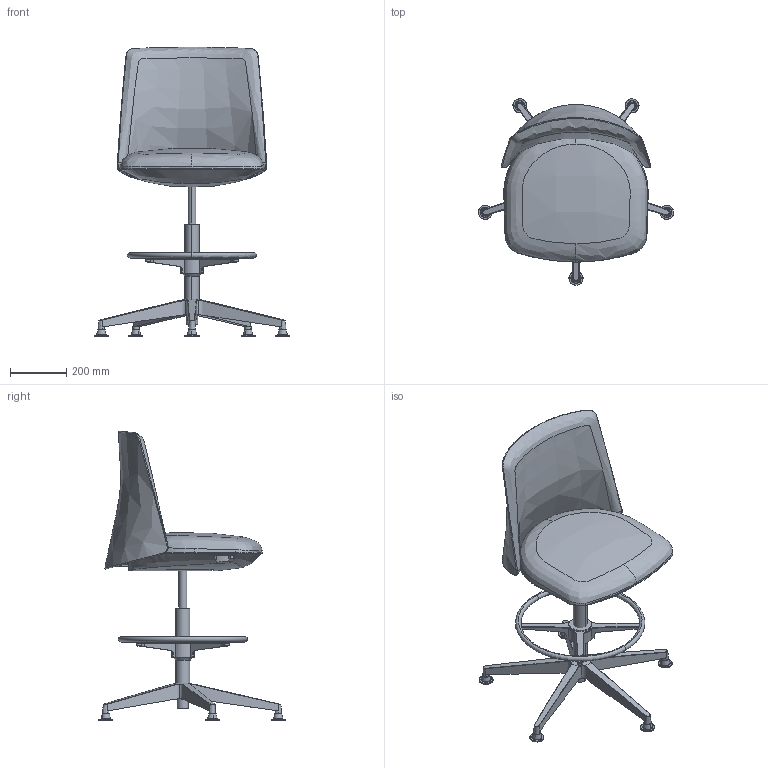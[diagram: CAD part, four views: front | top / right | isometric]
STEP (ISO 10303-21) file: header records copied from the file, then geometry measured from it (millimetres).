
FILE_DESCRIPTION(/* description */ (''),/* implementation_level */ '2;1');
FILE_NAME(/* name */ 'MELODY~1',/* time_stamp */ '2017-01-23T21:53:31+01:00',/* author */ (''),/* organization */ (''),/* preprocessor_version */ 'ST-DEVELOPER v15',/* originating_system */ '',/* authorisation */ '');
FILE_SCHEMA (('CONFIG_CONTROL_DESIGN'));
Length unit declared in the file: millimetre
Products named in the file (1): Document
Bounding box: 694.78 x 663.25 x 1029.45 mm (x, y, z)
Volume: 28981247.5 mm3; surface area: 1948670.6 mm2
Topology: 6 solids, 24 shells, 315 faces, 768 edges, 468 vertices
Faces by surface type: bspline 243, plane 72
Entity records: 18025 total; most frequent: CARTESIAN_POINT 13564, ORIENTED_EDGE 1431, EDGE_CURVE 760, VERTEX_POINT 462, B_SPLINE_CURVE_WITH_KNOTS 418, EDGE_LOOP 319, ADVANCED_FACE 315, FACE_OUTER_BOUND 315
